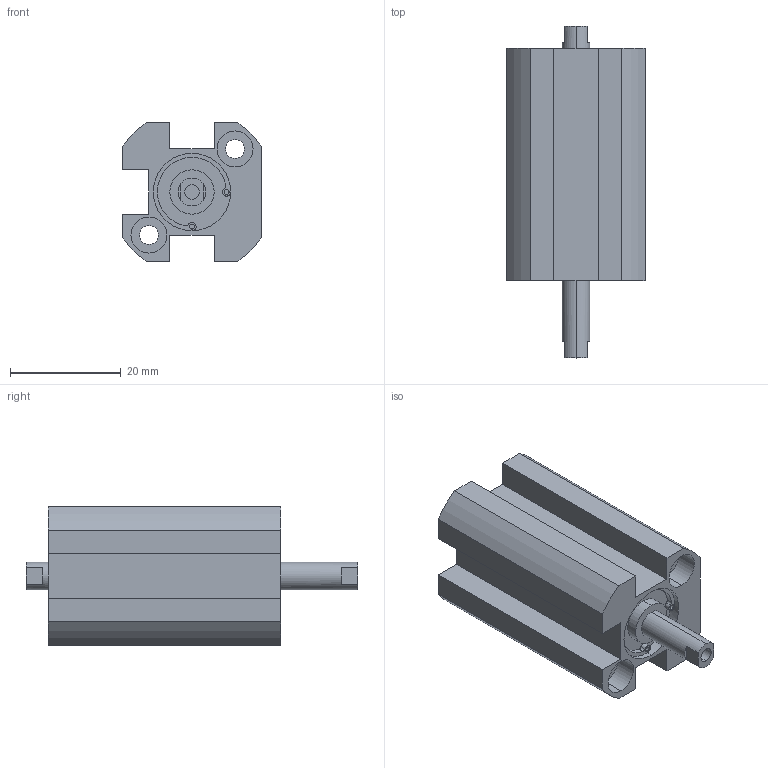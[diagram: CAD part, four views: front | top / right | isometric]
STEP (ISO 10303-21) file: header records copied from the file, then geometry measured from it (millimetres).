
FILE_DESCRIPTION (( 'STEP AP203' ), '1' );
FILE_NAME ('XG#7-10-10.STEP', '2016-05-24T01:55:16', ( '' ), ( '' ), 'SwSTEP 2.0', 'SolidWorks 2014', '' );
FILE_SCHEMA (( 'CONFIG_CONTROL_DESIGN' ));
Length unit declared in the file: millimetre
Products named in the file (1): XG#7-10-10
Bounding box: 25 x 60 x 25 mm (x, y, z)
Volume: 18643.3 mm3; surface area: 7941.4 mm2
Topology: 1 solids, 1 shells, 106 faces, 258 edges, 168 vertices
Faces by surface type: cylinder 58, plane 44, cone 4
Entity records: 3217 total; most frequent: DIRECTION 594, CARTESIAN_POINT 529, ORIENTED_EDGE 508, EDGE_CURVE 254, AXIS2_PLACEMENT_3D 233, VERTEX_POINT 168, LINE 128, EDGE_LOOP 128
